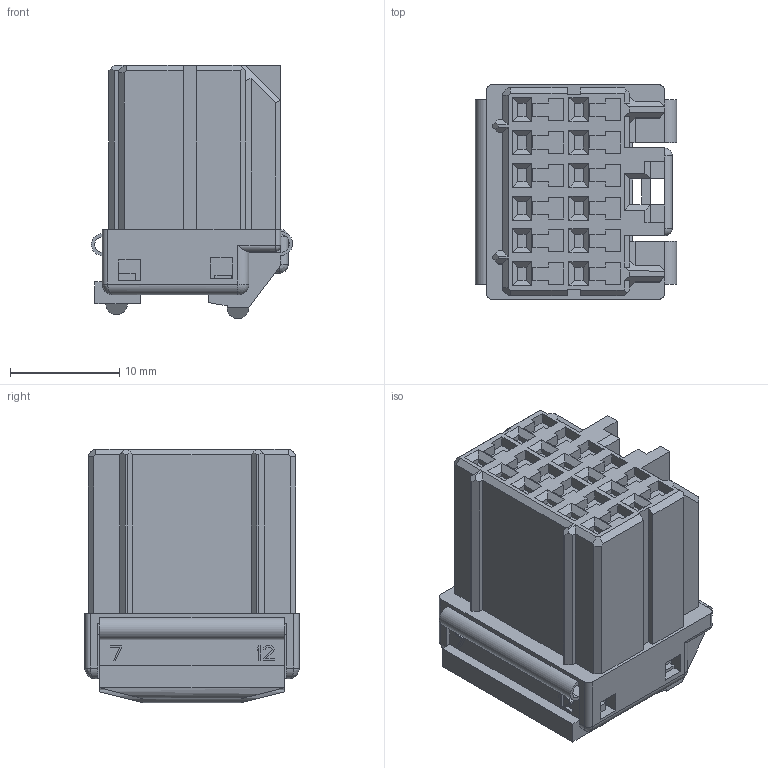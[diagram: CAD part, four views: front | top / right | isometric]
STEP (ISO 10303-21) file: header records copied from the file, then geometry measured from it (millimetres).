
FILE_DESCRIPTION((''),'2;1');
FILE_NAME('C-174913-6','2009-03-04T',('workeradm'),('Tyco Electronics Corporation'),'PRO/ENGINEER BY PARAMETRIC TECHNOLOGY CORPORATION, 2005450','PRO/ENGINEER BY PARAMETRIC TECHNOLOGY CORPORATION, 2005450','');
FILE_SCHEMA(('CONFIG_CONTROL_DESIGN', 'GEOMETRIC_VALIDATION_PROPERTIES_MIM'));
Length unit declared in the file: millimetre
Products named in the file (1): C-174913-6
Bounding box: 18.4 x 19.6 x 23.17 mm (x, y, z)
Volume: 4619.6 mm3; surface area: 4259.3 mm2
Topology: 1 solids, 1 shells, 677 faces, 1840 edges, 1186 vertices
Faces by surface type: plane 625, cylinder 42, sphere 6, bspline 4
Entity records: 21154 total; most frequent: CARTESIAN_POINT 3927, ORIENTED_EDGE 3680, DIRECTION 3254, EDGE_CURVE 1840, VECTOR 1748, LINE 1748, VERTEX_POINT 1186, AXIS2_PLACEMENT_3D 753
